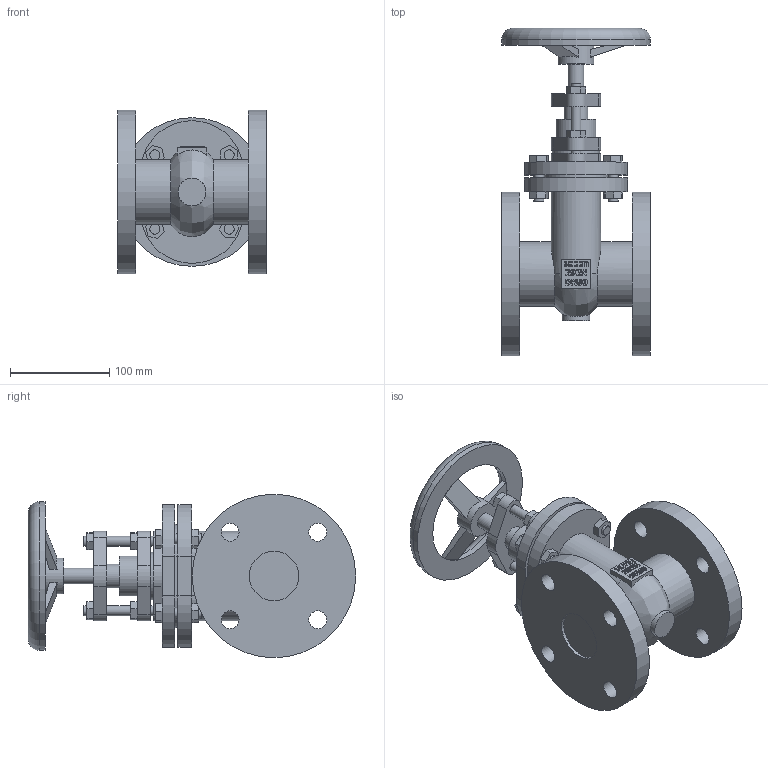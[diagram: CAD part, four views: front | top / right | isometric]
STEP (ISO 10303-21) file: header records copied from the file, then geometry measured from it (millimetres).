
FILE_DESCRIPTION(/* description */ (''),/* implementation_level */ '2;1');
FILE_NAME(/* name */ '292NOD-DN50-PN16 - 11810874.stp',/* time_stamp */ '2024-06-21T07:09:44+02:00',/* author */ ('roger.thijssen'),/* organization */ (''),/* preprocessor_version */ 'ST-DEVELOPER v20',/* originating_system */ 'Autodesk Inventor 2024',/* authorisation */ '');
FILE_SCHEMA (('AUTOMOTIVE_DESIGN { 1 0 10303 214 3 1 1 }'));
Length unit declared in the file: millimetre
Products named in the file (1): 292NOD-DN50-PN16 - 11810874
Bounding box: 150 x 330.5 x 165 mm (x, y, z)
Volume: 2090012.5 mm3; surface area: 250778.3 mm2
Topology: 1 solids, 1 shells, 392 faces, 1019 edges, 679 vertices
Faces by surface type: plane 249, bspline 73, cylinder 69, torus 1
Full cylindrical faces by diameter (mm): 10 x14, 16 x1, 18 x8, 24 x1, 28 x1, 36 x1, 40 x1, 48 x1, 50 x2, 65 x2, 106 x1, 150 x1, 165 x2
Entity records: 13235 total; most frequent: CARTESIAN_POINT 3381, ORIENTED_EDGE 2038, DIRECTION 1674, EDGE_CURVE 1019, LINE 704, VECTOR 704, VERTEX_POINT 679, AXIS2_PLACEMENT_3D 485
